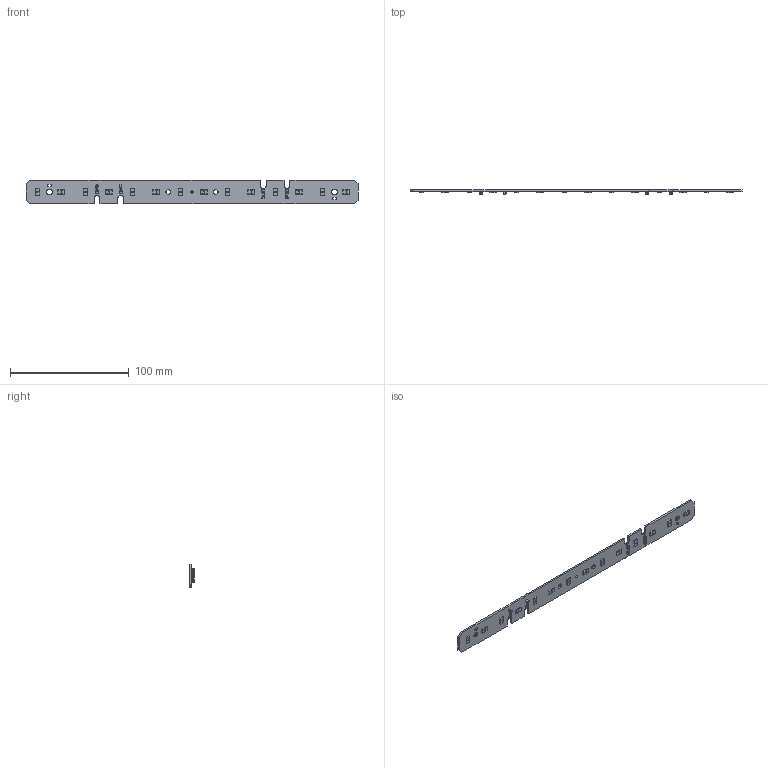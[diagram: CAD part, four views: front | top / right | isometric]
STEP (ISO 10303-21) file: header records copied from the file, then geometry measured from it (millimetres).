
FILE_DESCRIPTION(/* description */ ('Unknown'),/* implementation_level */ '2;1');
FILE_NAME(/* name */ 'LinLED 280x20mm 1100lm 2C 42V G1 sh-000 2019-11-04',/* time_stamp */ '2020-03-09T15:06:17+01:00',/* author */ ('Unknown'),/* organization */ ('Unknown'),/* preprocessor_version */ 'ST-DEVELOPER v16.7',/* originating_system */ 'Solid Edge',/* authorisation */ 'Unknown');
FILE_SCHEMA (('AUTOMOTIVE_DESIGN {1 0 10303 214 3 1 1}'));
Length unit declared in the file: millimetre
Products named in the file (1): LinLED 280x20mm 1100lm 2C 42V G1 sh-000 2019-11-04
Bounding box: 279.6 x 4.05 x 20 mm (x, y, z)
Volume: 8880.3 mm3; surface area: 12525.4 mm2
Topology: 1 solids, 1 shells, 901 faces, 2369 edges, 1502 vertices
Faces by surface type: plane 678, cylinder 119, bspline 92, torus 8, cone 4
Full cylindrical faces by diameter (mm): 1.8 x4, 2.1 x1, 2.3 x4, 4 x2
Entity records: 37311 total; most frequent: CARTESIAN_POINT 9286, ORIENTED_EDGE 4700, DIRECTION 4060, EDGE_CURVE 2350, LINE 1844, VECTOR 1844, VERTEX_POINT 1494, AXIS2_PLACEMENT_3D 1108
